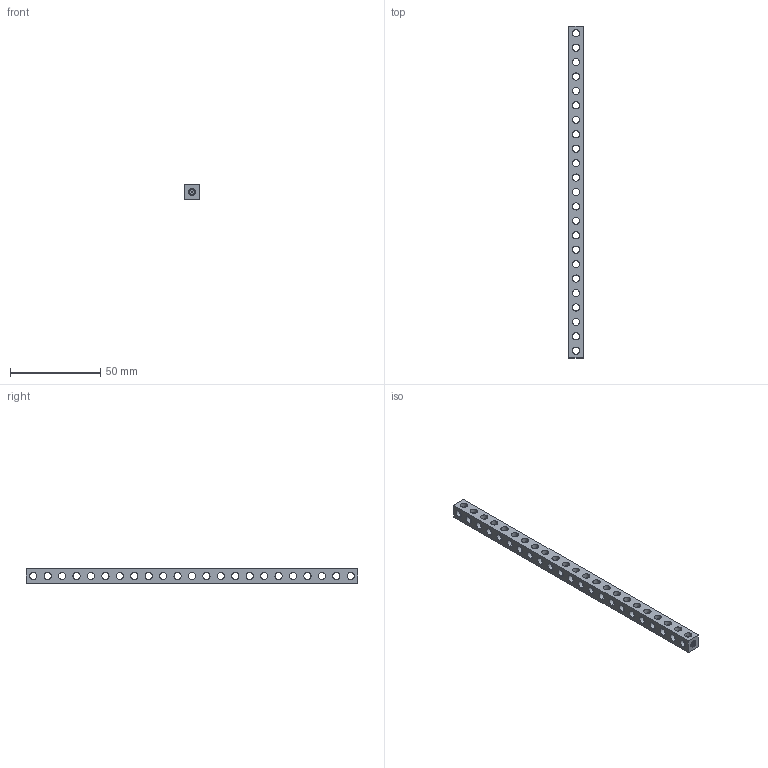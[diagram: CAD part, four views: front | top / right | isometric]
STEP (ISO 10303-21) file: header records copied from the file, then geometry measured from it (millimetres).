
FILE_DESCRIPTION (( 'STEP AP203' ), '1' );
FILE_NAME ('1106-0023-0184.STEP', '2017-03-30T18:13:20', ( '' ), ( '' ), 'SwSTEP 2.0', 'SolidWorks 2016', '' );
FILE_SCHEMA (( 'CONFIG_CONTROL_DESIGN' ));
Length unit declared in the file: millimetre
Products named in the file (1): 1106-0023-0184
Bounding box: 8 x 184 x 8 mm (x, y, z)
Volume: 8005.2 mm3; surface area: 8156 mm2
Topology: 1 solids, 1 shells, 336 faces, 1020 edges, 634 vertices
Faces by surface type: cylinder 290, bspline 34, cone 6, plane 6
Entity records: 49183 total; most frequent: CARTESIAN_POINT 41291, ORIENTED_EDGE 2040, DIRECTION 1264, EDGE_CURVE 1020, VERTEX_POINT 634, AXIS2_PLACEMENT_3D 497, EDGE_LOOP 430, ADVANCED_FACE 336
